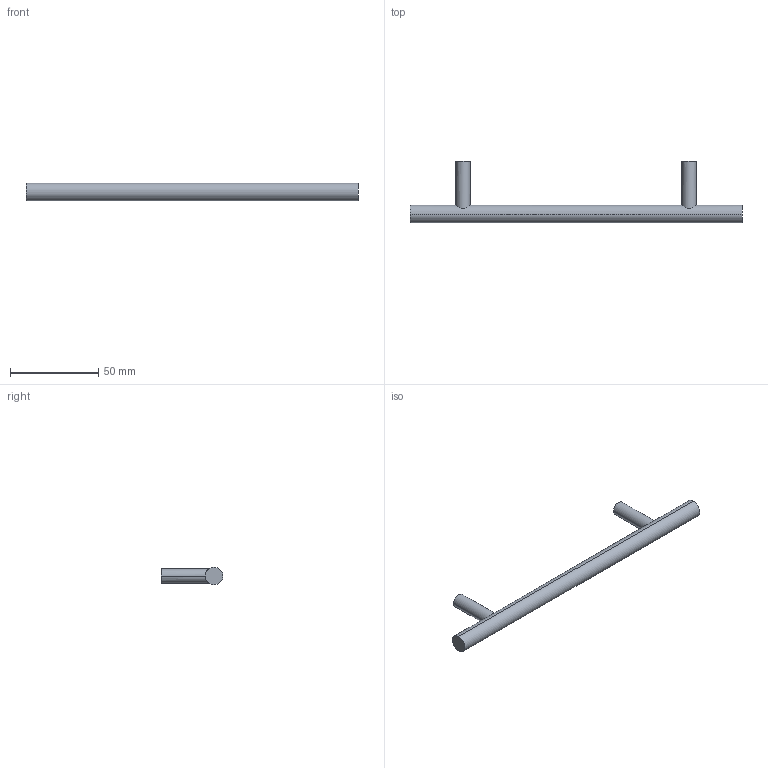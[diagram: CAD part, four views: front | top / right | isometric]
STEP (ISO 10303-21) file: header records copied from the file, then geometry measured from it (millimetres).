
FILE_DESCRIPTION( ( '' ), '1' );
FILE_NAME( 'D:/1.AUTOCAD EXPORT/Group 10/sheet_10_1/9070972.stp', '2013-10-21T08:26:53', ( '' ), ( '' ), ' ', ' ', ' ' );
FILE_SCHEMA( ( 'automotive_design' ) );
Length unit declared in the file: millimetre
Products named in the file (1): 1
Bounding box: 188 x 35 x 10 mm (x, y, z)
Volume: 17021.5 mm3; surface area: 7657.5 mm2
Topology: 1 solids, 1 shells, 16 faces, 32 edges, 22 vertices
Faces by surface type: cylinder 10, plane 6
Entity records: 972 total; most frequent: CARTESIAN_POINT 205, DIRECTION 76, STYLED_ITEM 71, PRESENTATION_STYLE_ASSIGNMENT 71, COLOUR_RGB 71, ORIENTED_EDGE 64, AXIS2_PLACEMENT_3D 33, EDGE_CURVE 32
